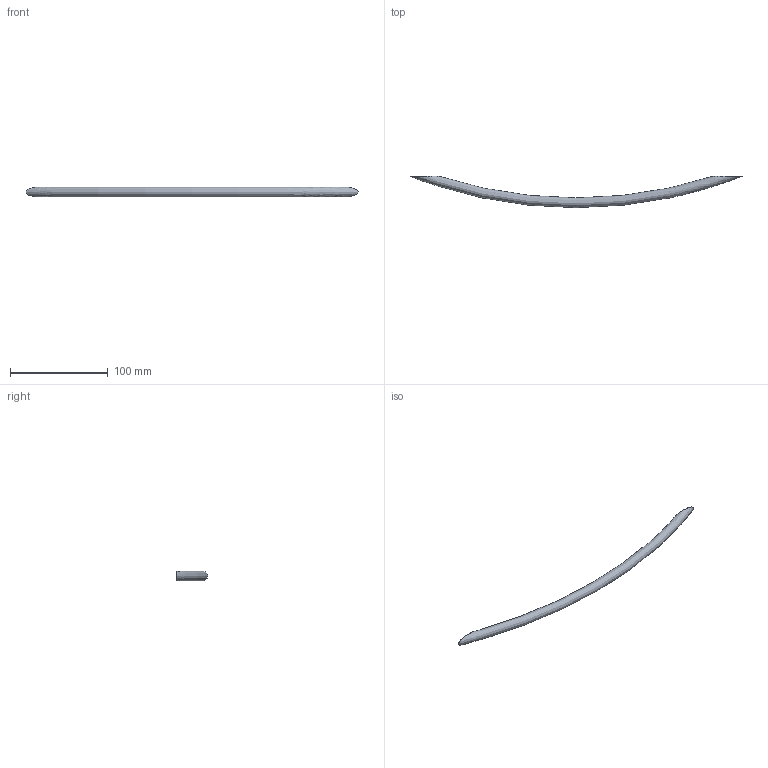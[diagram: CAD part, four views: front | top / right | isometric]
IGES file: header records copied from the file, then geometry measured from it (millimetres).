
Start section: Data from Parasolid IGES Translator 15.0.47, Copyright(c) 2006 Siemens P LM Software. All Rights Reserved.
Global section: file name:  9070509.igs; native system:  By UGS Corp.; preprocessor: XPlus GENERIC/IGES 3.0; author: Noname; organization: Noname; date: 20140122.155221; units: millimetre
Bounding box: 339 x 32 x 10 mm (x, y, z)
Surface area: 10548.7 mm2 (no closed solid volume)
Topology: 0 solids, 0 shells, 7 faces, 18 edges, 14 vertices
Faces by surface type: extrusion 4, revolution 3
